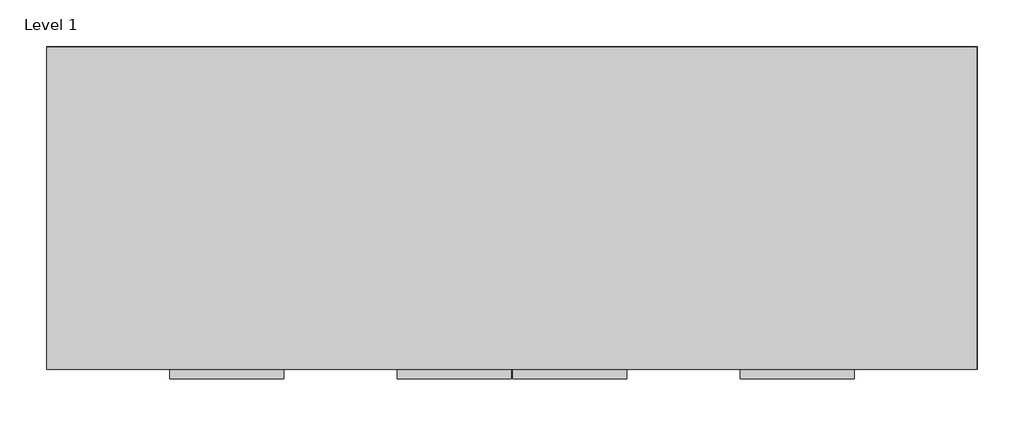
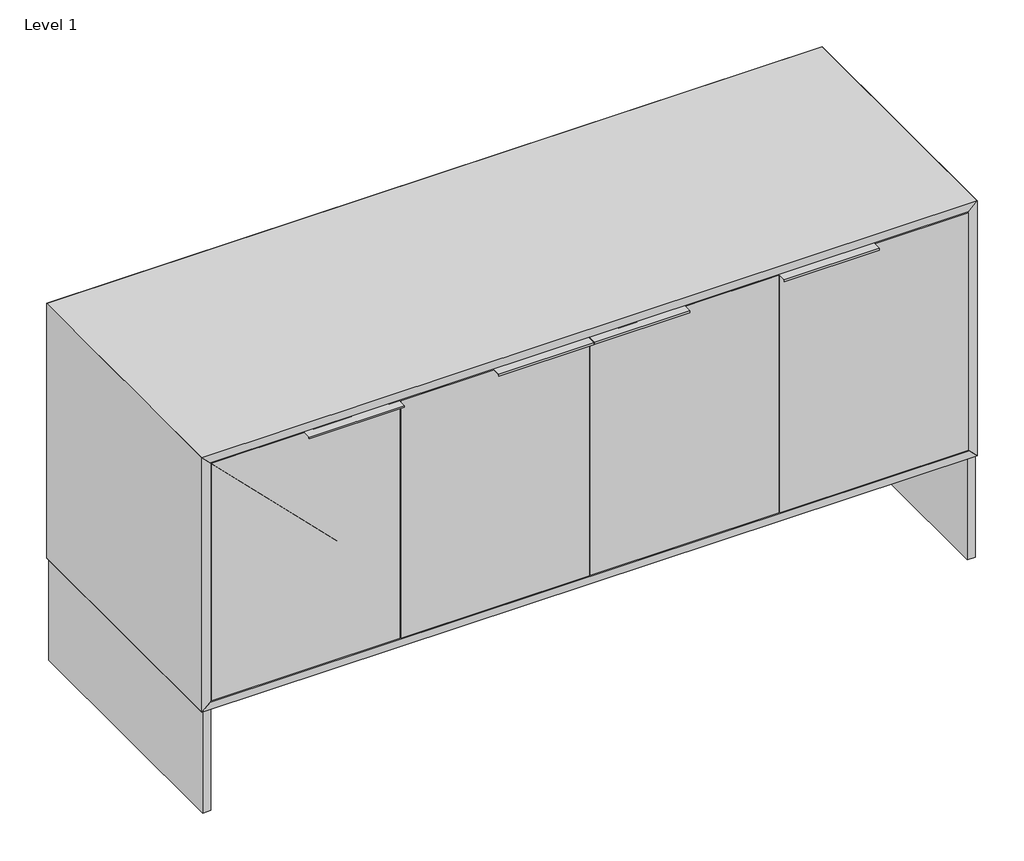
# One storey: 5 proxies.
"""IFC4 building model written with IfcOpenShell, lengths in millimetres."""

from ifc_helpers import new_model, si_unit, origin, place, context, project, spatial, transform, mapped, element, save
from components import generic_models_aee5ed7d, generic_models_c5994eb2

model = new_model("IFC4")

# Units and contexts
model_context = context("Model", 3, world=origin())
ifc_project = project(units=[si_unit("LENGTHUNIT", "METRE", prefix="MILLI")], contexts=[model_context])

# Site, building, storey
site = spatial("IfcSite", under=ifc_project)
building = spatial("IfcBuilding", under=site)
storey = spatial("IfcBuildingStorey", under=building, Name="Level 1", Elevation=0.0)

# Proxies
placement = place(None, origin())
generic_models_shape = generic_models_aee5ed7d(model_context)
element("IfcBuildingElementProxy", 1, Name="HAFELE 106.04.06-3 FINISHES", ObjectType="HAFELE 106.04.06-3 FINISHES", at=placement, inside=storey, context=model_context, shape_type="MappedRepresentation", body=[
    mapped(generic_models_shape, transform((915.590625, -615.95, 867.56875), x_axis=(1.0, 0.0, 0.0), y_axis=(0.0, 0.0, 1.0), z_axis=(0.0, -1.0, 0.0))),
])
element("IfcBuildingElementProxy", 2, Name="HAFELE 106.04.06-3 FINISHES", ObjectType="HAFELE 106.04.06-3 FINISHES", at=placement, inside=storey, context=model_context, shape_type="MappedRepresentation", body=[
    mapped(generic_models_shape, transform((1362.6703125, -615.95, 867.56875), x_axis=(1.0, 0.0, 0.0), y_axis=(0.0, 0.0, 1.0), z_axis=(0.0, -1.0, 0.0))),
])
element("IfcBuildingElementProxy", 3, Name="HAFELE 106.04.06-3 FINISHES", ObjectType="HAFELE 106.04.06-3 FINISHES", at=placement, inside=storey, context=model_context, shape_type="MappedRepresentation", body=[
    mapped(generic_models_shape, transform((242.1270875, -615.95, 867.56875), x_axis=(1.0, 0.0, 0.0), y_axis=(0.0, 0.0, 1.0), z_axis=(0.0, -1.0, 0.0))),
])
element("IfcBuildingElementProxy", 4, Name="HAFELE 106.04.06-3 FINISHES", ObjectType="HAFELE 106.04.06-3 FINISHES", at=placement, inside=storey, context=model_context, shape_type="MappedRepresentation", body=[
    mapped(generic_models_shape, transform((689.206775, -615.95, 867.56875), x_axis=(1.0, 0.0, 0.0), y_axis=(0.0, 0.0, 1.0), z_axis=(0.0, -1.0, 0.0))),
])
generic_models_2_shape = generic_models_c5994eb2(model_context)
element("IfcBuildingElementProxy", 5, Name="ELEVATE^CREDENZA 35h_25x72 4 DOOR-PARTS SOLID", ObjectType="ELEVATE^CREDENZA 35h_25x72 4 DOOR-PARTS SOLID", at=placement, inside=storey, context=model_context, shape_type="MappedRepresentation", body=[
    mapped(generic_models_2_shape, transform((0.0, 0.0, 254.0), x_axis=(1.0, 0.0, 0.0), y_axis=(0.0, 0.0, 1.0), z_axis=(0.0, -1.0, 0.0))),
])

save(model, "model.ifc")
